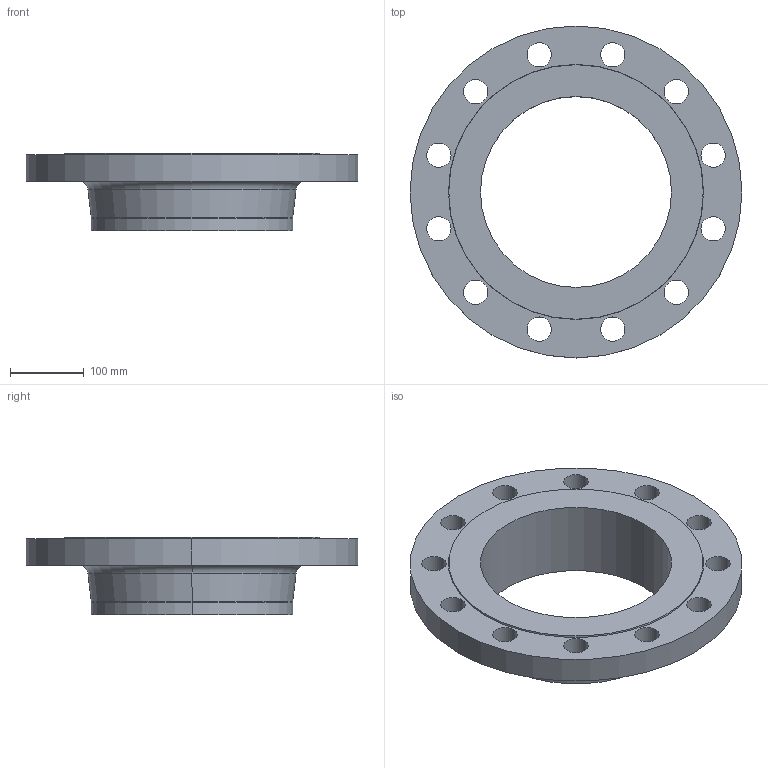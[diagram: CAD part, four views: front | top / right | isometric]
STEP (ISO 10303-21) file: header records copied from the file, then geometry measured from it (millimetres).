
FILE_DESCRIPTION (( 'STEP AP214' ), '1' );
FILE_NAME ('PN40 DN250 Type 11 - Type B Face.STEP', '2019-01-05T16:13:26', ( '' ), ( '' ), 'SwSTEP 2.0', 'SolidWorks 2019', '' );
FILE_SCHEMA (( 'AUTOMOTIVE_DESIGN' ));
Length unit declared in the file: millimetre
Products named in the file (1): PN40 DN250 Type 11 - Type B Face
Bounding box: 450 x 450 x 105 mm (x, y, z)
Volume: 4088970.2 mm3; surface area: 425354.3 mm2
Topology: 1 solids, 1 shells, 42 faces, 108 edges, 70 vertices
Faces by surface type: cylinder 30, cone 4, torus 4, plane 4
Entity records: 1404 total; most frequent: DIRECTION 268, CARTESIAN_POINT 221, ORIENTED_EDGE 216, AXIS2_PLACEMENT_3D 117, EDGE_CURVE 108, CIRCLE 74, EDGE_LOOP 70, VERTEX_POINT 70
